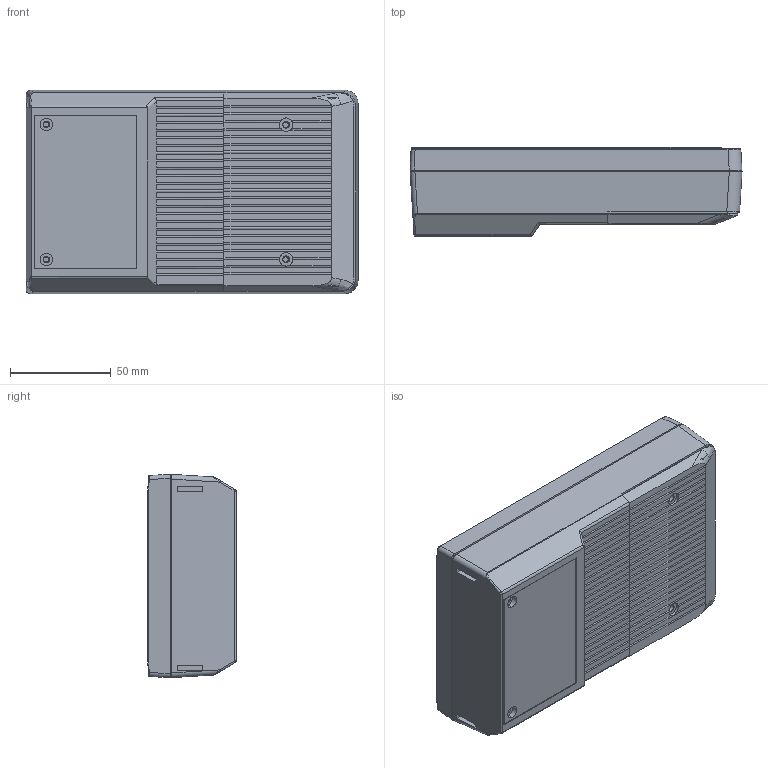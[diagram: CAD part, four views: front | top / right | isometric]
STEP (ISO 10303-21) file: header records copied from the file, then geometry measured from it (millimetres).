
FILE_DESCRIPTION (( 'STEP AP214' ), '1' );
FILE_NAME ('ME-20.STEP', '2020-05-08T22:24:15', ( 'Rudy' ), ( '' ), 'SwSTEP 2.0', 'SolidWorks 2014', '' );
FILE_SCHEMA (( 'AUTOMOTIVE_DESIGN' ));
Length unit declared in the file: inch
Products named in the file (4): ME-door_1; ME-20-top_1; ME-bottom_1; ME-20
Assembly tree (3 placements, depth 2):
  ME-20
    ME-bottom_1
    ME-20-top_1
    ME-door_1
Bounding box: 165.18 x 44.13 x 101.13 mm (x, y, z)
Volume: 166693.1 mm3; surface area: 134856.1 mm2
Topology: 3 solids, 3 shells, 1515 faces, 4022 edges, 2663 vertices
Faces by surface type: plane 718, bspline 523, cylinder 212, cone 62
Entity records: 69708 total; most frequent: CARTESIAN_POINT 35227, ORIENTED_EDGE 8044, DIRECTION 5366, EDGE_CURVE 4022, VERTEX_POINT 2663, VECTOR 2386, LINE 2386, EDGE_LOOP 1693
